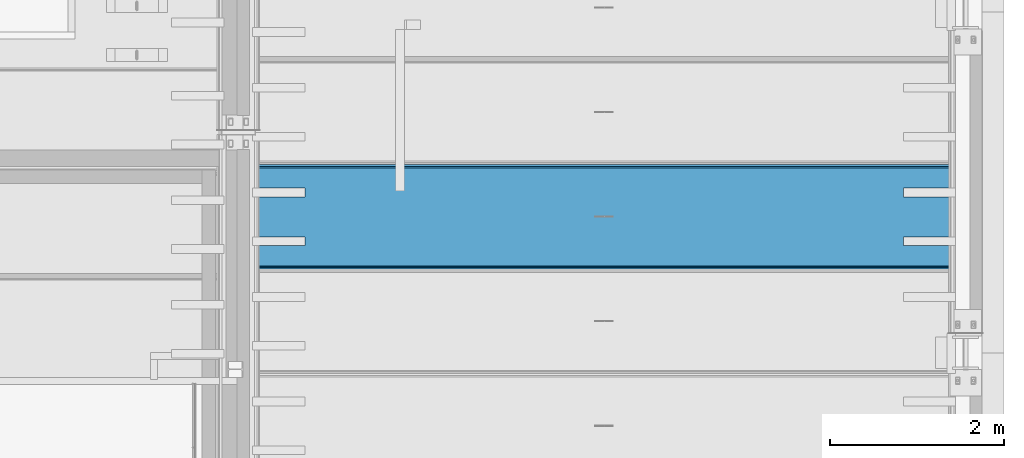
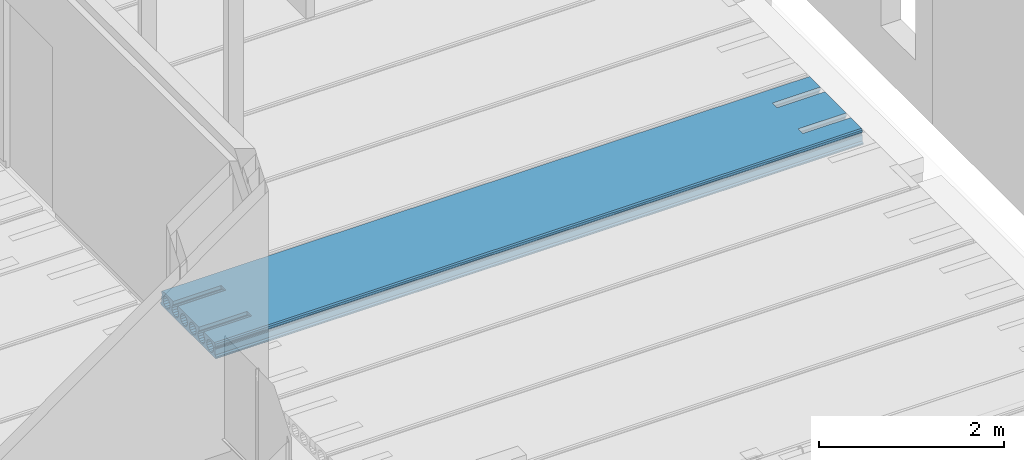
# One storey, part 107 of 230: 1 beam.
"""IFC4X3_ADD2 building model written with IfcOpenShell, lengths in millimetres."""

from ifc_helpers import new_model, si_unit, direction, origin_with_axes, place, context, subcontext, project, spatial, polygons, element, save


model = new_model("IFC4X3_ADD2")

# Units and contexts
model_context = context("Model", 3, precision=1e-05, world=origin_with_axes(), true_north=direction((0.0, 1.0)))
body_context = subcontext(model_context, "Body", "Model", "MODEL_VIEW")
ifc_project = project(units=[si_unit("LENGTHUNIT", "METRE", prefix="MILLI"), si_unit("AREAUNIT", "SQUARE_METRE"), si_unit("VOLUMEUNIT", "CUBIC_METRE"), si_unit("PLANEANGLEUNIT", "RADIAN"), si_unit("TIMEUNIT", "SECOND"), si_unit("MASSUNIT", "GRAM")], contexts=[model_context])

# Site, building, storey
site_placement = place(None, origin_with_axes())
site = spatial("IfcSite", under=ifc_project, at=site_placement, Name="Site", CompositionType="ELEMENT")
building_placement = place(site_placement, origin_with_axes())
building = spatial("IfcBuilding", under=site, at=building_placement, Name="IFC Building Story")
storey_placement = place(building_placement, origin_with_axes())
storey = spatial("IfcBuildingStorey", under=building, at=storey_placement, Name="ETAGE 00 (0)", Elevation=0.0)

# Beam
beam_placement = place(storey_placement, origin_with_axes())
element("IfcBeam", 1, at=beam_placement, inside=storey, Name="HOLLOWCORE SLAB", ObjectType="EB_SP200", context=body_context, shape_type="Tessellation", body=[
    polygons([(40131.189, 6949.0, 3999.9999909), (40131.189, 5771.0, 3999.9999909), (40131.189, 5760.0, 4012.9999909), (40131.189, 5760.0, 4029.9999909), (40131.189, 5780.0, 4044.9999909), (40131.189, 5781.450012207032, 4119.9999909), (40131.189, 5788.982621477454, 4128.676139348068), (40131.189, 5791.839930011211, 4139.805000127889), (40131.189, 5789.418636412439, 4151.036789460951), (40131.189, 5782.22998046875, 4159.9999909), (40131.189, 5782.711296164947, 4185.002769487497), (40131.189, 5798.0, 4199.9999909), (40131.189, 6030.0, 4199.9999909), (40131.189, 6030.0, 4155.806158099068), (40131.189, 6025.320544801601, 4152.679446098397), (40131.189, 6009.17097482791, 4128.509906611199), (40131.189, 6003.5, 4099.9999909), (40131.189, 6009.17097482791, 4071.490075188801), (40131.189, 6025.320544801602, 4047.320535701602), (40131.189, 6049.490084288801, 4031.170965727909), (40131.189, 6078.0, 4025.4999909), (40131.189, 6106.509915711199, 4031.170965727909), (40131.189, 6130.679455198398, 4047.320535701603), (40131.189, 6146.829025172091, 4071.490075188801), (40131.189, 6152.5, 4099.9999909), (40131.189, 6146.829025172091, 4128.509906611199), (40131.189, 6130.679455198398, 4152.679446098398), (40131.189, 6130.0, 4153.13344354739), (40131.189, 6130.0, 4199.9999909), (40131.189, 6590.0, 4199.9999909), (40131.189, 6590.0, 4153.13344354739), (40131.189, 6589.320544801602, 4152.679446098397), (40131.189, 6573.170974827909, 4128.509906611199), (40131.189, 6567.5, 4099.9999909), (40131.189, 6573.170974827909, 4071.490075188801), (40131.189, 6589.320544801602, 4047.320535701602), (40131.189, 6613.490084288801, 4031.170965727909), (40131.189, 6642.0, 4025.4999909), (40131.189, 6670.509915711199, 4031.170965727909), (40131.189, 6694.679455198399, 4047.320535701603), (40131.189, 6710.82902517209, 4071.490075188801), (40131.189, 6716.5, 4099.9999909), (40131.189, 6710.82902517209, 4128.509906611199), (40131.189, 6694.679455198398, 4152.679446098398), (40131.189, 6690.0, 4155.806158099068), (40131.189, 6690.0, 4199.9999909), (40131.189, 6922.0, 4199.9999909), (40131.189, 6937.288703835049, 4185.002769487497), (40131.189, 6937.77001953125, 4159.9999909), (40131.189, 6930.58136358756, 4151.036789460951), (40131.189, 6928.160069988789, 4139.805000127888), (40131.189, 6931.017378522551, 4128.676139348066), (40131.189, 6938.549987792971, 4119.9999909), (40131.189, 6940.0, 4044.9999909), (40131.189, 6960.0, 4029.9999909), (40131.189, 6960.0, 4012.9999909), (40131.189, 6882.679455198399, 4152.679446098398), (40131.189, 6858.5099157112, 4168.829016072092), (40131.189, 6830.0, 4174.4999909), (40131.189, 6801.4900842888, 4168.829016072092), (40131.189, 6777.320544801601, 4152.679446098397), (40131.189, 6761.17097482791, 4128.509906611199), (40131.189, 6755.5, 4099.9999909), (40131.189, 6761.17097482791, 4071.490075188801), (40131.189, 6777.320544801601, 4047.320535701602), (40131.189, 6801.4900842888, 4031.170965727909), (40131.189, 6830.0, 4025.4999909), (40131.189, 6858.5099157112, 4031.170965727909), (40131.189, 6882.679455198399, 4047.320535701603), (40131.189, 6898.82902517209, 4071.490075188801), (40131.189, 6904.5, 4099.9999909), (40131.189, 6898.82902517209, 4128.509906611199), (40131.189, 6506.679455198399, 4152.679446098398), (40131.189, 6482.509915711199, 4168.829016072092), (40131.189, 6454.0, 4174.4999909), (40131.189, 6425.490084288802, 4168.829016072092), (40131.189, 6401.320544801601, 4152.679446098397), (40131.189, 6385.170974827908, 4128.509906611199), (40131.189, 6379.5, 4099.9999909), (40131.189, 6385.17097482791, 4071.490075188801), (40131.189, 6401.320544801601, 4047.320535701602), (40131.189, 6425.490084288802, 4031.170965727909), (40131.189, 6454.0, 4025.4999909), (40131.189, 6482.509915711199, 4031.170965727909), (40131.189, 6506.679455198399, 4047.320535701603), (40131.189, 6522.829025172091, 4071.490075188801), (40131.189, 6528.5, 4099.9999909), (40131.189, 6522.829025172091, 4128.509906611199), (40131.189, 6318.679455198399, 4152.679446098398), (40131.189, 6294.509915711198, 4168.829016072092), (40131.189, 6266.0, 4174.4999909), (40131.189, 6237.490084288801, 4168.829016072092), (40131.189, 6213.320544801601, 4152.679446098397), (40131.189, 6197.170974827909, 4128.509906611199), (40131.189, 6191.5, 4099.9999909), (40131.189, 6197.170974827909, 4071.490075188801), (40131.189, 6213.320544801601, 4047.320535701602), (40131.189, 6237.490084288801, 4031.170965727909), (40131.189, 6266.0, 4025.4999909), (40131.189, 6294.509915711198, 4031.170965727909), (40131.189, 6318.679455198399, 4047.320535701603), (40131.189, 6334.829025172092, 4071.490075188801), (40131.189, 6340.5, 4099.9999909), (40131.189, 6334.82902517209, 4128.509906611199), (40131.189, 5942.679455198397, 4152.679446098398), (40131.189, 5918.5099157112, 4168.829016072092), (40131.189, 5890.0, 4174.4999909), (40131.189, 5861.4900842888, 4168.829016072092), (40131.189, 5837.320544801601, 4152.679446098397), (40131.189, 5821.170974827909, 4128.509906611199), (40131.189, 5815.500000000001, 4099.9999909), (40131.189, 5821.170974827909, 4071.490075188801), (40131.189, 5837.320544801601, 4047.320535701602), (40131.189, 5861.4900842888, 4031.170965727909), (40131.189, 5890.0, 4025.4999909), (40131.189, 5918.5099157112, 4031.170965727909), (40131.189, 5942.679455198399, 4047.320535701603), (40131.189, 5958.829025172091, 4071.490075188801), (40131.189, 5964.5, 4099.9999909), (40131.189, 5958.829025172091, 4128.509906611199), (48196.189, 6949.0, 3999.9999909), (48196.189, 6960.0, 4012.9999909), (48196.189, 6960.0, 4029.9999909), (48196.189, 6940.0, 4044.9999909), (48196.189, 6938.549987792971, 4119.9999909), (48196.189, 6931.017378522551, 4128.676139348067), (48196.189, 6928.160069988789, 4139.805000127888), (48196.189, 6930.58136358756, 4151.036789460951), (48196.189, 6937.77001953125, 4159.9999909), (48196.189, 6937.288703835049, 4185.002769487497), (48196.189, 6922.0, 4199.9999909), (48196.189, 6690.0, 4199.9999909), (48196.189, 6690.0, 4155.806158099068), (48196.189, 6694.679455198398, 4152.679446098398), (48196.189, 6710.82902517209, 4128.509906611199), (48196.189, 6716.5, 4099.9999909), (48196.189, 6710.82902517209, 4071.490075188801), (48196.189, 6694.679455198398, 4047.320535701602), (48196.189, 6670.509915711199, 4031.170965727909), (48196.189, 6642.0, 4025.4999909), (48196.189, 6613.490084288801, 4031.170965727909), (48196.189, 6589.320544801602, 4047.320535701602), (48196.189, 6573.170974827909, 4071.490075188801), (48196.189, 6567.5, 4099.9999909), (48196.189, 6573.170974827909, 4128.509906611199), (48196.189, 6589.320544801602, 4152.679446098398), (48196.189, 6590.0, 4153.13344354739), (48196.189, 6590.0, 4199.9999909), (48196.189, 6130.0, 4199.9999909), (48196.189, 6130.0, 4153.13344354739), (48196.189, 6130.679455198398, 4152.679446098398), (48196.189, 6146.829025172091, 4128.509906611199), (48196.189, 6152.5, 4099.9999909), (48196.189, 6146.829025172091, 4071.490075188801), (48196.189, 6130.679455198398, 4047.320535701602), (48196.189, 6106.509915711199, 4031.170965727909), (48196.189, 6078.0, 4025.4999909), (48196.189, 6049.490084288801, 4031.170965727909), (48196.189, 6025.320544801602, 4047.320535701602), (48196.189, 6009.17097482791, 4071.490075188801), (48196.189, 6003.5, 4099.9999909), (48196.189, 6009.17097482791, 4128.509906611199), (48196.189, 6025.320544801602, 4152.679446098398), (48196.189, 6030.0, 4155.806158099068), (48196.189, 6030.0, 4199.9999909), (48196.189, 5798.0, 4199.9999909), (48196.189, 5782.711296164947, 4185.002769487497), (48196.189, 5782.22998046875, 4159.9999909), (48196.189, 5789.418636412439, 4151.036789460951), (48196.189, 5791.839930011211, 4139.805000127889), (48196.189, 5788.982621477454, 4128.676139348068), (48196.189, 5781.450012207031, 4119.9999909), (48196.189, 5780.0, 4044.9999909), (48196.189, 5760.0, 4029.9999909), (48196.189, 5760.0, 4012.9999909), (48196.189, 5771.0, 3999.9999909), (48196.189, 6882.679455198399, 4152.679446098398), (48196.189, 6898.82902517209, 4128.509906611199), (48196.189, 6904.5, 4099.9999909), (48196.189, 6898.82902517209, 4071.490075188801), (48196.189, 6882.679455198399, 4047.320535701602), (48196.189, 6858.5099157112, 4031.170965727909), (48196.189, 6830.0, 4025.4999909), (48196.189, 6801.4900842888, 4031.170965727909), (48196.189, 6777.320544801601, 4047.320535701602), (48196.189, 6761.17097482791, 4071.490075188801), (48196.189, 6755.5, 4099.9999909), (48196.189, 6761.17097482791, 4128.509906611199), (48196.189, 6777.320544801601, 4152.679446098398), (48196.189, 6801.4900842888, 4168.829016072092), (48196.189, 6830.0, 4174.4999909), (48196.189, 6858.5099157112, 4168.829016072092), (48196.189, 6506.679455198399, 4152.679446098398), (48196.189, 6522.829025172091, 4128.509906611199), (48196.189, 6528.5, 4099.9999909), (48196.189, 6522.829025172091, 4071.490075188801), (48196.189, 6506.679455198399, 4047.320535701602), (48196.189, 6482.509915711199, 4031.170965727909), (48196.189, 6454.0, 4025.4999909), (48196.189, 6425.490084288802, 4031.170965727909), (48196.189, 6401.320544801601, 4047.320535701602), (48196.189, 6385.170974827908, 4071.490075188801), (48196.189, 6379.5, 4099.9999909), (48196.189, 6385.170974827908, 4128.509906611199), (48196.189, 6401.320544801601, 4152.679446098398), (48196.189, 6425.490084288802, 4168.829016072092), (48196.189, 6454.0, 4174.4999909), (48196.189, 6482.509915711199, 4168.829016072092), (48196.189, 6318.679455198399, 4152.679446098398), (48196.189, 6334.829025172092, 4128.509906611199), (48196.189, 6340.5, 4099.9999909), (48196.189, 6334.829025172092, 4071.490075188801), (48196.189, 6318.679455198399, 4047.320535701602), (48196.189, 6294.509915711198, 4031.170965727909), (48196.189, 6266.0, 4025.4999909), (48196.189, 6237.490084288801, 4031.170965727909), (48196.189, 6213.320544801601, 4047.320535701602), (48196.189, 6197.170974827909, 4071.490075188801), (48196.189, 6191.5, 4099.9999909), (48196.189, 6197.170974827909, 4128.509906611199), (48196.189, 6213.320544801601, 4152.679446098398), (48196.189, 6237.490084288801, 4168.829016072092), (48196.189, 6266.0, 4174.4999909), (48196.189, 6294.509915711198, 4168.829016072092), (48196.189, 5942.679455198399, 4152.679446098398), (48196.189, 5958.829025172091, 4128.509906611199), (48196.189, 5964.5, 4099.9999909), (48196.189, 5958.829025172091, 4071.490075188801), (48196.189, 5942.679455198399, 4047.320535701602), (48196.189, 5918.5099157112, 4031.170965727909), (48196.189, 5890.0, 4025.4999909), (48196.189, 5861.4900842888, 4031.170965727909), (48196.189, 5837.320544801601, 4047.320535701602), (48196.189, 5821.170974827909, 4071.490075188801), (48196.189, 5815.500000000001, 4099.9999909), (48196.189, 5821.170974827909, 4128.509906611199), (48196.189, 5837.320544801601, 4152.679446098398), (48196.189, 5861.4900842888, 4168.829016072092), (48196.189, 5890.0, 4174.4999909), (48196.189, 5918.5099157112, 4168.829016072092), (40731.189, 6690.0, 4199.9999909), (40731.189, 6590.0, 4199.9999909), (40731.189, 6130.0, 4199.9999909), (40731.189, 6030.0, 4199.9999909), (47596.18900000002, 6030.0, 4199.9999909), (47596.18900000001, 6130.0, 4199.9999909), (47596.18900000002, 6590.0, 4199.9999909), (47596.18900000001, 6690.0, 4199.9999909), (47596.18900000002, 6690.0, 4155.806158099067), (47596.18900000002, 6670.509915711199, 4168.829016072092), (40731.189, 6670.5099157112, 4168.82901607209), (40731.189, 6690.0, 4155.806158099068), (47596.18900000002, 6642.0, 4174.4999909), (40731.189, 6642.0, 4174.4999909), (47596.18900000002, 6613.490084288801, 4168.829016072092), (40731.189, 6613.490084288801, 4168.829016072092), (40731.189, 6590.0, 4153.133443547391), (47596.18900000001, 6590.0, 4153.13344354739), (47596.18900000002, 6130.0, 4153.13344354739), (47596.18900000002, 6106.509915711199, 4168.829016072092), (40731.189, 6106.5099157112, 4168.82901607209), (40731.189, 6130.0, 4153.13344354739), (47596.18900000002, 6078.0, 4174.4999909), (40731.189, 6078.0, 4174.4999909), (47596.18900000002, 6049.490084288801, 4168.829016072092), (40731.189, 6049.4900842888, 4168.829016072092), (40731.189, 6030.0, 4155.806158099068), (47596.18900000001, 6030.0, 4155.806158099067), (40731.189, 6590.0, 4199.999996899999), (40731.189, 6690.0, 4199.999996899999), (47596.18900000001, 6690.0, 4199.999996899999), (47596.18900000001, 6590.0, 4199.999996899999), (47596.18900000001, 6130.0, 4199.999996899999), (47596.18900000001, 6030.0, 4199.999996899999), (40731.189, 6030.0, 4199.999996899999), (40731.189, 6130.0, 4199.999996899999)], [[[27, 28, 29]], [[92, 93, 26]], [[92, 26, 27]], [[92, 27, 29]], [[29, 91, 92]], [[91, 29, 30]], [[30, 90, 91]], [[30, 89, 90]], [[94, 95, 25]], [[94, 25, 26]], [[26, 93, 94]], [[96, 97, 24]], [[24, 25, 95]], [[24, 95, 96]], [[97, 23, 24]], [[76, 77, 104]], [[76, 104, 89]], [[89, 75, 76]], [[75, 89, 30]], [[30, 74, 75]], [[30, 73, 74]], [[78, 79, 103]], [[78, 103, 104]], [[104, 77, 78]], [[80, 81, 102]], [[102, 103, 79]], [[102, 79, 80]], [[81, 101, 102]], [[88, 73, 30]], [[88, 30, 31]], [[33, 34, 87]], [[33, 87, 88]], [[88, 32, 33]], [[88, 31, 32]], [[35, 36, 86]], [[86, 87, 34]], [[86, 34, 35]], [[36, 85, 86]], [[44, 45, 46]], [[60, 61, 43]], [[60, 43, 44]], [[60, 44, 46]], [[46, 59, 60]], [[46, 47, 59]], [[47, 58, 59]], [[47, 57, 58]], [[62, 63, 42]], [[62, 42, 43]], [[43, 61, 62]], [[64, 65, 41]], [[41, 42, 63]], [[41, 63, 64]], [[50, 51, 72]], [[50, 72, 57]], [[57, 47, 48]], [[57, 48, 49]], [[57, 49, 50]], [[52, 53, 71]], [[52, 71, 72]], [[72, 51, 52]], [[53, 54, 70]], [[53, 70, 71]], [[54, 55, 56]], [[54, 56, 1]], [[1, 69, 70]], [[1, 70, 54]], [[1, 68, 69]], [[1, 67, 68]], [[1, 66, 67]], [[1, 40, 66]], [[40, 41, 65]], [[40, 65, 66]], [[1, 39, 40]], [[1, 38, 39]], [[1, 84, 38]], [[84, 37, 38]], [[84, 85, 36]], [[84, 36, 37]], [[1, 83, 84]], [[1, 100, 83]], [[100, 82, 83]], [[100, 101, 81]], [[100, 81, 82]], [[1, 99, 100]], [[1, 22, 99]], [[22, 98, 99]], [[22, 23, 97]], [[22, 97, 98]], [[1, 21, 22]], [[1, 2, 21]], [[2, 20, 21]], [[2, 19, 20]], [[9, 10, 11]], [[9, 11, 12]], [[109, 110, 8]], [[109, 8, 9]], [[9, 12, 108]], [[9, 108, 109]], [[12, 107, 108]], [[107, 12, 13]], [[13, 106, 107]], [[13, 105, 106]], [[110, 7, 8]], [[112, 113, 5]], [[5, 6, 111]], [[5, 111, 112]], [[6, 7, 110]], [[6, 110, 111]], [[116, 117, 18]], [[116, 18, 19]], [[19, 115, 116]], [[19, 2, 115]], [[2, 114, 115]], [[2, 5, 113]], [[2, 113, 114]], [[2, 3, 4]], [[2, 4, 5]], [[118, 119, 17]], [[118, 17, 18]], [[18, 117, 118]], [[120, 105, 16]], [[16, 17, 119]], [[16, 119, 120]], [[105, 13, 15]], [[105, 15, 16]], [[13, 14, 15]], [[173, 174, 175]], [[173, 175, 176]], [[128, 129, 130]], [[128, 130, 131]], [[128, 131, 177]], [[177, 178, 127]], [[177, 127, 128]], [[178, 126, 127]], [[180, 181, 124]], [[124, 125, 179]], [[124, 179, 180]], [[125, 126, 178]], [[125, 178, 179]], [[192, 177, 131]], [[131, 191, 192]], [[191, 131, 132]], [[132, 190, 191]], [[132, 189, 190]], [[132, 133, 188]], [[132, 188, 189]], [[135, 136, 187]], [[135, 187, 188]], [[188, 134, 135]], [[188, 133, 134]], [[137, 138, 186]], [[186, 187, 136]], [[186, 136, 137]], [[138, 139, 185]], [[138, 185, 186]], [[139, 184, 185]], [[146, 147, 148]], [[148, 193, 145]], [[148, 145, 146]], [[194, 195, 144]], [[194, 144, 145]], [[145, 193, 194]], [[196, 197, 143]], [[143, 144, 195]], [[143, 195, 196]], [[197, 142, 143]], [[208, 193, 148]], [[148, 207, 208]], [[148, 209, 207]], [[209, 206, 207]], [[209, 205, 206]], [[209, 204, 205]], [[210, 211, 203]], [[210, 203, 204]], [[204, 209, 210]], [[212, 213, 202]], [[202, 203, 211]], [[202, 211, 212]], [[213, 201, 202]], [[224, 209, 148]], [[148, 223, 224]], [[148, 149, 223]], [[149, 222, 223]], [[149, 221, 222]], [[149, 150, 220]], [[149, 220, 221]], [[152, 153, 219]], [[152, 219, 220]], [[220, 151, 152]], [[220, 150, 151]], [[154, 155, 218]], [[218, 219, 153]], [[218, 153, 154]], [[155, 217, 218]], [[163, 164, 165]], [[165, 225, 162]], [[165, 162, 163]], [[226, 227, 161]], [[226, 161, 162]], [[162, 225, 226]], [[228, 229, 160]], [[160, 161, 227]], [[160, 227, 228]], [[235, 236, 171]], [[235, 171, 172]], [[172, 173, 234]], [[172, 234, 235]], [[173, 176, 233]], [[173, 233, 234]], [[176, 232, 233]], [[176, 231, 232]], [[176, 230, 231]], [[176, 159, 230]], [[159, 160, 229]], [[159, 229, 230]], [[176, 158, 159]], [[176, 157, 158]], [[176, 216, 157]], [[216, 156, 157]], [[216, 217, 155]], [[216, 155, 156]], [[176, 215, 216]], [[176, 200, 215]], [[200, 214, 215]], [[200, 201, 213]], [[200, 213, 214]], [[176, 199, 200]], [[176, 141, 199]], [[141, 198, 199]], [[141, 142, 197]], [[141, 197, 198]], [[176, 140, 141]], [[176, 183, 140]], [[183, 184, 139]], [[183, 139, 140]], [[176, 121, 183]], [[121, 182, 183]], [[121, 124, 181]], [[121, 181, 182]], [[121, 122, 123]], [[121, 123, 124]], [[236, 170, 171]], [[240, 225, 165]], [[165, 239, 240]], [[165, 166, 239]], [[166, 238, 239]], [[166, 169, 237]], [[166, 237, 238]], [[169, 170, 236]], [[169, 236, 237]], [[166, 167, 168]], [[166, 168, 169]], [[2, 1, 121, 176]], [[3, 2, 176, 175]], [[4, 3, 175, 174]], [[5, 4, 174, 173]], [[6, 5, 173, 172]], [[7, 6, 172, 171]], [[8, 7, 171, 170]], [[9, 8, 170, 169]], [[10, 9, 169, 168]], [[11, 10, 168, 167]], [[12, 11, 167, 166]], [[242, 30, 29]], [[242, 29, 243]], [[244, 13, 12]], [[244, 12, 166]], [[166, 243, 244]], [[242, 243, 166]], [[166, 241, 242]], [[246, 149, 148]], [[246, 148, 247]], [[248, 132, 131]], [[248, 131, 47]], [[47, 247, 248]], [[246, 247, 47]], [[47, 245, 246]], [[47, 241, 166]], [[47, 166, 245]], [[166, 165, 245]], [[47, 46, 241]], [[48, 47, 131, 130]], [[49, 48, 130, 129]], [[50, 49, 129, 128]], [[51, 50, 128, 127]], [[52, 51, 127, 126]], [[53, 52, 126, 125]], [[54, 53, 125, 124]], [[55, 54, 124, 123]], [[56, 55, 123, 122]], [[1, 56, 122, 121]], [[58, 57, 177, 192]], [[59, 58, 192, 191]], [[60, 59, 191, 190]], [[61, 60, 190, 189]], [[62, 61, 189, 188]], [[63, 62, 188, 187]], [[64, 63, 187, 186]], [[65, 64, 186, 185]], [[66, 65, 185, 184]], [[67, 66, 184, 183]], [[68, 67, 183, 182]], [[69, 68, 182, 181]], [[70, 69, 181, 180]], [[71, 70, 180, 179]], [[72, 71, 179, 178]], [[57, 72, 178, 177]], [[252, 45, 44]], [[252, 44, 249]], [[249, 250, 251]], [[249, 251, 252]], [[44, 134, 249]], [[134, 133, 249]], [[251, 250, 253, 254]], [[254, 253, 255, 256]], [[258, 147, 146]], [[258, 146, 257]], [[257, 256, 255]], [[257, 255, 258]], [[146, 32, 257]], [[32, 31, 257]], [[33, 32, 146, 145]], [[34, 33, 145, 144]], [[35, 34, 144, 143]], [[36, 35, 143, 142]], [[37, 36, 142, 141]], [[38, 37, 141, 140]], [[39, 38, 140, 139]], [[40, 39, 139, 138]], [[41, 40, 138, 137]], [[42, 41, 137, 136]], [[43, 42, 136, 135]], [[44, 43, 135, 134]], [[74, 73, 193, 208]], [[75, 74, 208, 207]], [[76, 75, 207, 206]], [[77, 76, 206, 205]], [[78, 77, 205, 204]], [[79, 78, 204, 203]], [[80, 79, 203, 202]], [[81, 80, 202, 201]], [[82, 81, 201, 200]], [[83, 82, 200, 199]], [[84, 83, 199, 198]], [[85, 84, 198, 197]], [[86, 85, 197, 196]], [[87, 86, 196, 195]], [[88, 87, 195, 194]], [[73, 88, 194, 193]], [[90, 89, 209, 224]], [[91, 90, 224, 223]], [[92, 91, 223, 222]], [[93, 92, 222, 221]], [[94, 93, 221, 220]], [[95, 94, 220, 219]], [[96, 95, 219, 218]], [[97, 96, 218, 217]], [[98, 97, 217, 216]], [[99, 98, 216, 215]], [[100, 99, 215, 214]], [[101, 100, 214, 213]], [[102, 101, 213, 212]], [[103, 102, 212, 211]], [[104, 103, 211, 210]], [[89, 104, 210, 209]], [[262, 28, 27]], [[262, 27, 259]], [[259, 260, 261]], [[259, 261, 262]], [[27, 151, 259]], [[151, 150, 259]], [[260, 263, 264, 261]], [[263, 265, 266, 264]], [[268, 164, 163]], [[268, 163, 267]], [[267, 266, 265]], [[267, 265, 268]], [[163, 15, 267]], [[15, 14, 267]], [[16, 15, 163, 162]], [[17, 16, 162, 161]], [[18, 17, 161, 160]], [[19, 18, 160, 159]], [[20, 19, 159, 158]], [[21, 20, 158, 157]], [[22, 21, 157, 156]], [[23, 22, 156, 155]], [[24, 23, 155, 154]], [[25, 24, 154, 153]], [[26, 25, 153, 152]], [[27, 26, 152, 151]], [[106, 105, 225, 240]], [[107, 106, 240, 239]], [[108, 107, 239, 238]], [[109, 108, 238, 237]], [[110, 109, 237, 236]], [[111, 110, 236, 235]], [[112, 111, 235, 234]], [[113, 112, 234, 233]], [[114, 113, 233, 232]], [[115, 114, 232, 231]], [[116, 115, 231, 230]], [[117, 116, 230, 229]], [[118, 117, 229, 228]], [[119, 118, 228, 227]], [[120, 119, 227, 226]], [[105, 120, 226, 225]], [[46, 45, 252, 241]], [[31, 30, 269, 257]], [[256, 257, 242]], [[242, 270, 254]], [[242, 254, 256]], [[270, 251, 254]], [[270, 252, 251]], [[148, 147, 258, 247]], [[133, 132, 271, 249]], [[250, 249, 248]], [[248, 253, 250]], [[248, 272, 255]], [[248, 255, 253]], [[272, 258, 255]], [[165, 164, 268, 245]], [[150, 149, 273, 259]], [[260, 259, 246]], [[246, 274, 263]], [[246, 263, 260]], [[274, 265, 263]], [[274, 268, 265]], [[262, 243, 29, 28]], [[275, 267, 14, 13]], [[266, 267, 244]], [[244, 264, 266]], [[244, 276, 261]], [[244, 261, 264]], [[276, 262, 261]]]),
])

save(model, "model.ifc")
